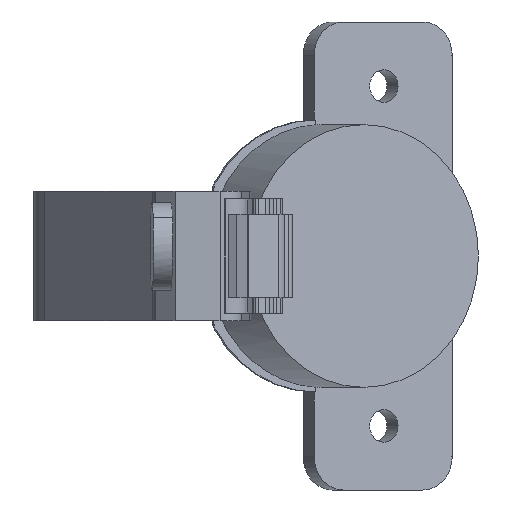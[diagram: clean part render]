
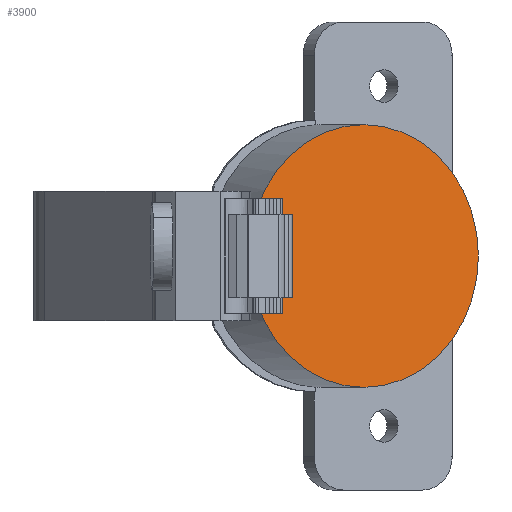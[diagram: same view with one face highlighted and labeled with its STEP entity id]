
A CAD part, left-side view. The second image highlights one B-rep face of the part: STEP entity #3900.
In plain terms, the highlighted planar face has unit normal (-0.872, -0.49, 0).
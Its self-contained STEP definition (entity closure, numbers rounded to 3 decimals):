
#206 = DIRECTION ( 'NONE',  ( 0., 0., -1. ) ) ;
#271 = CIRCLE ( 'NONE', #1339, 17.4 ) ;
#297 = DIRECTION ( 'NONE',  ( 0.872, 0.49, 0. ) ) ;
#320 = EDGE_CURVE ( 'NONE', #3891, #3302, #271, .T. ) ;
#972 = DIRECTION ( 'NONE',  ( -0.872, -0.49, 0. ) ) ;
#1064 = DIRECTION ( 'NONE',  ( 0., 0., 1. ) ) ;
#1267 = ORIENTED_EDGE ( 'NONE', *, *, #320, .T. ) ;
#1339 = AXIS2_PLACEMENT_3D ( 'NONE', #2152, #972, #3629 ) ;
#1768 = CARTESIAN_POINT ( 'NONE',  ( 20.076, -24.548, 17.4 ) ) ;
#2152 = CARTESIAN_POINT ( 'NONE',  ( 20.076, -24.548, 0. ) ) ;
#2251 = CARTESIAN_POINT ( 'NONE',  ( 25.447, -34.11, -7.7 ) ) ;
#2742 = AXIS2_PLACEMENT_3D ( 'NONE', #2963, #4488, #206 ) ;
#2963 = CARTESIAN_POINT ( 'NONE',  ( 20.076, -24.548, 0. ) ) ;
#3216 = CIRCLE ( 'NONE', #2742, 17.4 ) ;
#3276 = PLANE ( 'NONE',  #3962 ) ;
#3302 = VERTEX_POINT ( 'NONE', #4197 ) ;
#3629 = DIRECTION ( 'NONE',  ( 0., 0., -1. ) ) ;
#3891 = VERTEX_POINT ( 'NONE', #1768 ) ;
#3900 = ADVANCED_FACE ( 'NONE', ( #4910 ), #3276, .F. ) ;
#3962 = AXIS2_PLACEMENT_3D ( 'NONE', #2251, #297, #1064 ) ;
#4197 = CARTESIAN_POINT ( 'NONE',  ( 20.076, -24.548, -17.4 ) ) ;
#4265 = ORIENTED_EDGE ( 'NONE', *, *, #4748, .T. ) ;
#4488 = DIRECTION ( 'NONE',  ( -0.872, -0.49, 0. ) ) ;
#4591 = EDGE_LOOP ( 'NONE', ( #1267, #4265 ) ) ;
#4748 = EDGE_CURVE ( 'NONE', #3302, #3891, #3216, .T. ) ;
#4910 = FACE_OUTER_BOUND ( 'NONE', #4591, .T. ) ;
